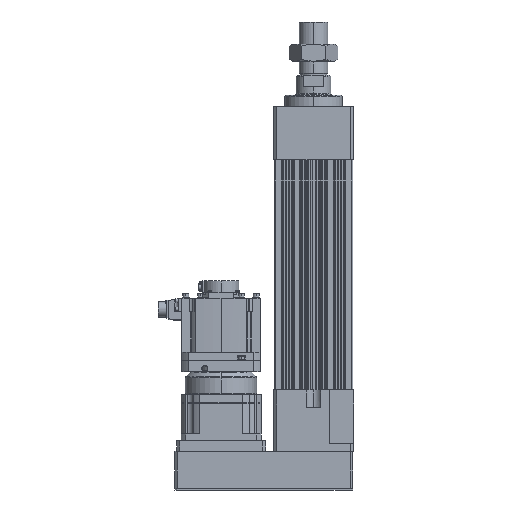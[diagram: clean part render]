
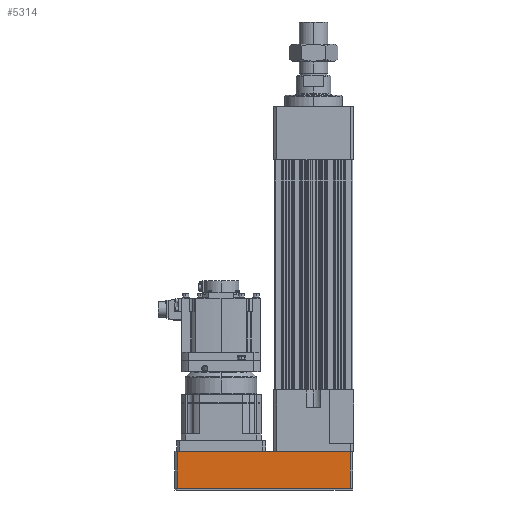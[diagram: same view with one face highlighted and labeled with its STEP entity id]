
A CAD part, left-side view. The second image highlights one B-rep face of the part: STEP entity #5314.
In plain terms, the highlighted planar face has unit normal (-1, 0, 0).
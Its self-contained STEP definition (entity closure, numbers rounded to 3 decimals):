
#331 = CARTESIAN_POINT ( 'NONE',  ( -88., 306., -221.5 ) ) ;
#2286 = CARTESIAN_POINT ( 'NONE',  ( -88., -82., -222. ) ) ;
#2404 = CARTESIAN_POINT ( 'NONE',  ( -88., -82., -221.5 ) ) ;
#2737 = CARTESIAN_POINT ( 'NONE',  ( -88., -82., -221.5 ) ) ;
#3816 = LINE ( 'NONE', #2737, #41438 ) ;
#4466 = VECTOR ( 'NONE', #5970, 1000. ) ;
#5314 = ADVANCED_FACE ( 'NONE', ( #45737 ), #21739, .F. ) ;
#5970 = DIRECTION ( 'NONE',  ( 0., 0., 1. ) ) ;
#9281 = VECTOR ( 'NONE', #39397, 1000. ) ;
#10307 = CARTESIAN_POINT ( 'NONE',  ( -88., -82., -138.5 ) ) ;
#19347 = EDGE_CURVE ( 'NONE', #22200, #25903, #3816, .T. ) ;
#19799 = AXIS2_PLACEMENT_3D ( 'NONE', #22251, #46659, #26036 ) ;
#21739 = PLANE ( 'NONE',  #19799 ) ;
#22200 = VERTEX_POINT ( 'NONE', #331 ) ;
#22251 = CARTESIAN_POINT ( 'NONE',  ( -88., -82., -222. ) ) ;
#23540 = LINE ( 'NONE', #43551, #9281 ) ;
#23579 = ORIENTED_EDGE ( 'NONE', *, *, #19347, .T. ) ;
#23913 = LINE ( 'NONE', #24850, #31034 ) ;
#24850 = CARTESIAN_POINT ( 'NONE',  ( -88., -82., -138.5 ) ) ;
#25045 = DIRECTION ( 'NONE',  ( 0., -1., 0. ) ) ;
#25903 = VERTEX_POINT ( 'NONE', #2404 ) ;
#26036 = DIRECTION ( 'NONE',  ( 0., 0., -1. ) ) ;
#27690 = ORIENTED_EDGE ( 'NONE', *, *, #46586, .F. ) ;
#28667 = DIRECTION ( 'NONE',  ( 0., 1., 0. ) ) ;
#31034 = VECTOR ( 'NONE', #28667, 1000. ) ;
#31710 = ORIENTED_EDGE ( 'NONE', *, *, #37268, .T. ) ;
#33872 = ORIENTED_EDGE ( 'NONE', *, *, #37506, .T. ) ;
#35100 = VERTEX_POINT ( 'NONE', #41622 ) ;
#37268 = EDGE_CURVE ( 'NONE', #49721, #35100, #23913, .T. ) ;
#37506 = EDGE_CURVE ( 'NONE', #25903, #49721, #48486, .T. ) ;
#39397 = DIRECTION ( 'NONE',  ( 0., 0., 1. ) ) ;
#41438 = VECTOR ( 'NONE', #25045, 1000. ) ;
#41622 = CARTESIAN_POINT ( 'NONE',  ( -88., 306., -138.5 ) ) ;
#43551 = CARTESIAN_POINT ( 'NONE',  ( -88., 306., -222. ) ) ;
#45737 = FACE_OUTER_BOUND ( 'NONE', #48819, .T. ) ;
#46586 = EDGE_CURVE ( 'NONE', #22200, #35100, #23540, .T. ) ;
#46659 = DIRECTION ( 'NONE',  ( 1., 0., 0. ) ) ;
#48486 = LINE ( 'NONE', #2286, #4466 ) ;
#48819 = EDGE_LOOP ( 'NONE', ( #27690, #23579, #33872, #31710 ) ) ;
#49721 = VERTEX_POINT ( 'NONE', #10307 ) ;
